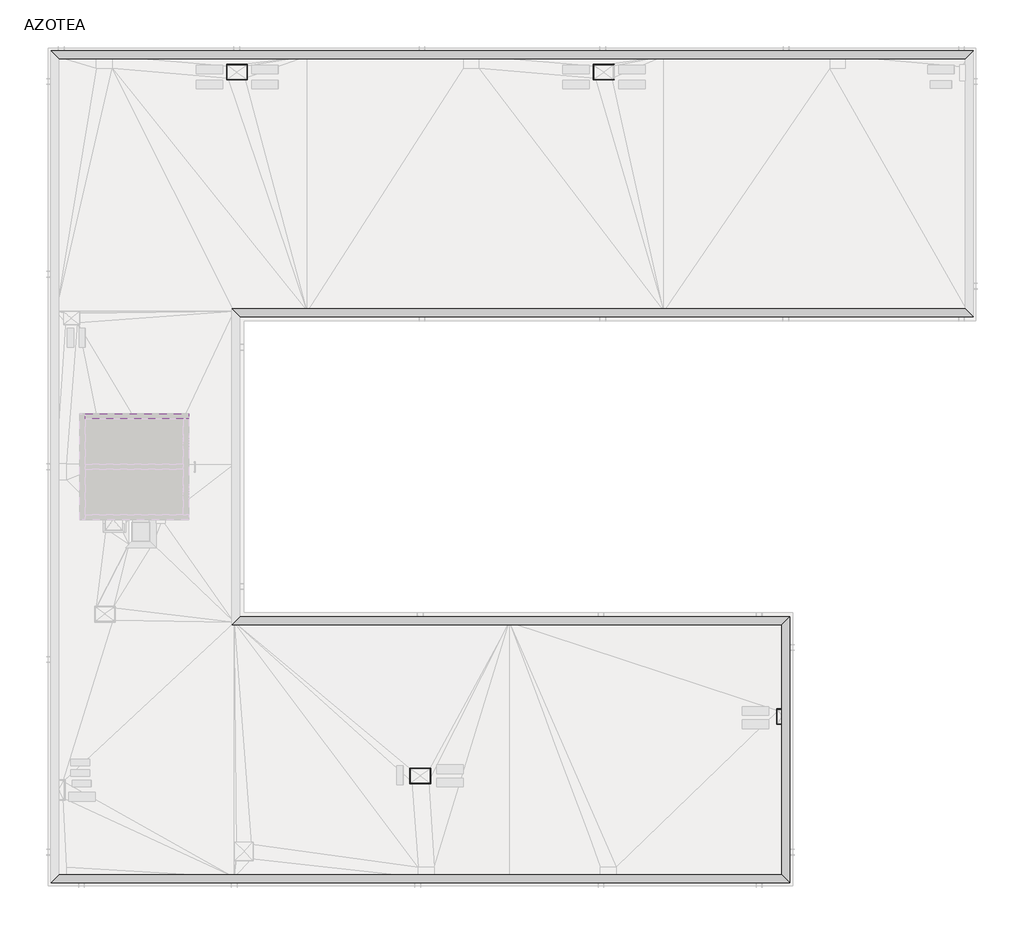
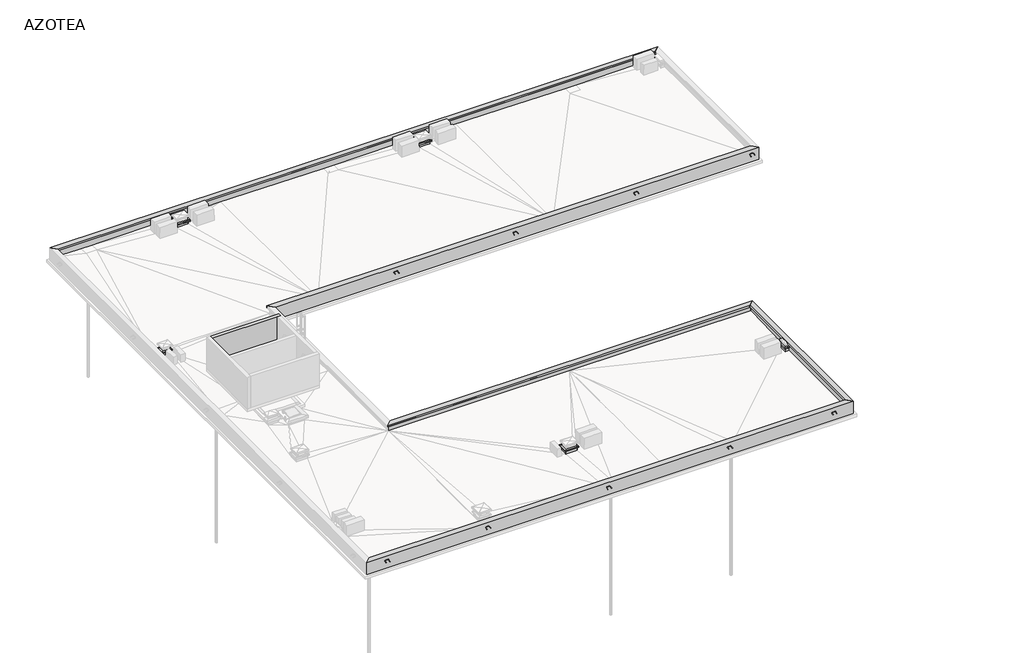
# One storey, part 5 of 6: 24 beams.
"""IFC4 building model written with IfcOpenShell, lengths in millimetres."""

from ifc_helpers import new_model, si_unit, origin, place, context, project, spatial, faceted_brep, element, save

model = new_model("IFC4")

# Units and contexts
model_context = context("Model", 3, world=origin())
ifc_project = project(units=[si_unit("LENGTHUNIT", "METRE", prefix="MILLI")], contexts=[model_context])

# Site, building, storey
site = spatial("IfcSite", under=ifc_project)
building = spatial("IfcBuilding", under=site)
storey = spatial("IfcBuildingStorey", under=building, Name="AZOTEA", Elevation=6570.0)

# Beams
placement = place(None, origin())
element("IfcBeam", 1, ObjectType="ARES-I-HA-Viga con aleta-PET : Viga pretil-20x90-aleta10x10cm-PET", at=placement, inside=storey, context=model_context, shape_type="Brep", body=[
    faceted_brep([(3458.7173693, 31350.2304035, 7210.0), (37618.7173693, 31350.2304035, 7210.0), (37608.7173693, 31340.2304035, 7220.0), (3468.7173693, 31340.2304035, 7220.0), (37598.7173693, 31330.2304035, 7210.0), (3478.7173693, 31330.2304035, 7210.0), (37588.7173693, 31320.2304035, 7210.0), (3488.7173693, 31320.2304035, 7210.0), (37588.7173693, 31320.2304035, 7310.0), (3488.7173693, 31320.2304035, 7310.0), (37888.7173693, 31620.2304035, 7310.0), (3188.7173693, 31620.2304035, 7310.0), (37888.7173693, 31620.2304035, 6570.0), (37888.7173693, 31620.2304035, 6410.0), (37688.7173693, 31620.2304035, 6410.0), (30988.7173694, 31620.2304035, 6410.0), (30788.7173694, 31620.2304035, 6410.0), (24088.7173694, 31620.2304035, 6410.0), (23888.7173694, 31620.2304035, 6410.0), (17188.7173694, 31620.2304035, 6410.0), (16988.7173694, 31620.2304035, 6410.0), (10288.7173694, 31620.2304035, 6410.0), (10088.7173694, 31620.2304035, 6410.0), (3388.7173693, 31620.2304035, 6410.0), (3188.7173693, 31620.2304035, 6410.0), (3188.7173693, 31620.2304035, 6570.0), (37688.7173693, 31420.2304035, 6410.0), (37688.7173693, 31430.2304035, 6410.0), (30988.7173694, 31430.2304035, 6410.0), (30988.7173694, 31420.2304035, 6410.0), (30788.7173693, 31420.2304035, 6410.0), (30788.7173693, 31430.2304035, 6410.0), (24088.7173693, 31430.2304035, 6410.0), (24088.7173693, 31420.2304035, 6410.0), (23888.7173694, 31420.2304035, 6410.0), (23888.7173694, 31430.2304035, 6410.0), (17188.7173694, 31430.2304035, 6410.0), (17188.7173694, 31420.2304035, 6410.0), (16988.7173694, 31420.2304035, 6410.0), (16988.7173694, 31430.2304035, 6410.0), (10288.7173694, 31430.2304035, 6410.0), (10288.7173694, 31420.2304035, 6410.0), (10088.7173694, 31420.2304035, 6410.0), (10088.7173694, 31430.2304035, 6410.0), (3388.7173693, 31430.2304035, 6410.0), (3388.7173693, 31420.2304035, 6410.0), (37688.7173693, 31420.2304035, 7210.0), (3388.7173693, 31420.2304035, 7210.0), (3388.7173693, 31420.2304035, 6570.0), (10088.7173694, 31420.2304035, 6570.0), (10288.7173694, 31420.2304035, 6570.0), (16988.7173694, 31420.2304035, 6570.0), (17188.7173694, 31420.2304035, 6570.0), (23888.7173694, 31420.2304035, 6570.0), (24088.7173693, 31420.2304035, 6570.0), (30788.7173693, 31420.2304035, 6570.0), (30988.7173694, 31420.2304035, 6570.0), (37688.7173693, 31420.2304035, 6570.0), (30988.7173694, 31430.2304035, 6570.0), (37688.7173693, 31430.2304035, 6570.0), (3388.7173693, 31430.2304035, 6570.0), (10088.7173694, 31430.2304035, 6570.0), (10288.7173694, 31430.2304035, 6570.0), (16988.7173694, 31430.2304035, 6570.0), (17188.7173694, 31430.2304035, 6570.0), (23888.7173694, 31430.2304035, 6570.0), (24088.7173693, 31430.2304035, 6570.0), (30788.7173693, 31430.2304035, 6570.0)], [[[0, 1, 2, 3]], [[3, 2, 4, 5]], [[5, 4, 6, 7]], [[7, 6, 8, 9]], [[9, 8, 10, 11]], [[11, 10, 12, 13, 14, 15, 16, 17, 18, 19, 20, 21, 22, 23, 24, 25]], [[24, 23, 22, 21, 20, 19, 18, 17, 16, 15, 14, 13, 26, 27, 28, 29, 30, 31, 32, 33, 34, 35, 36, 37, 38, 39, 40, 41, 42, 43, 44, 45]], [[46, 47, 48, 49, 42, 41, 50, 51, 38, 37, 52, 53, 34, 33, 54, 55, 30, 29, 56, 57]], [[1, 0, 47, 46]], [[1, 46, 57, 26, 13, 12, 10, 8, 6, 4, 2]], [[58, 59, 57, 56]], [[0, 3, 5, 7, 9, 11, 25, 24, 45, 48, 47]], [[44, 60, 48, 45]], [[61, 60, 44, 43]], [[61, 43, 42, 49]], [[40, 62, 50, 41]], [[63, 62, 40, 39]], [[63, 39, 38, 51]], [[36, 64, 52, 37]], [[65, 64, 36, 35]], [[65, 35, 34, 53]], [[32, 66, 54, 33]], [[67, 66, 32, 31]], [[67, 31, 30, 55]], [[59, 27, 26, 57]], [[28, 58, 56, 29]], [[59, 58, 28, 27]], [[66, 67, 55, 54]], [[64, 65, 53, 52]], [[62, 63, 51, 50]], [[60, 61, 49, 48]]]),
])
element("IfcBeam", 2, ObjectType="ARES-I-HA-Viga con aleta-PET : Viga pretil-20x90-aleta10x10cm-PET", at=placement, inside=storey, context=model_context, shape_type="Brep", body=[
    faceted_brep([(30718.7173693, 590.2304035, 7210.0), (3458.7173693, 590.2304035, 7210.0), (3468.7173693, 600.2304035, 7220.0), (30708.7173693, 600.2304035, 7220.0), (3478.7173693, 610.2304035, 7210.0), (30698.7173693, 610.2304035, 7210.0), (3488.7173693, 620.2304035, 7210.0), (30688.7173693, 620.2304035, 7210.0), (3488.7173693, 620.2304035, 7310.0), (30688.7173693, 620.2304035, 7310.0), (3188.7173693, 320.2304035, 7310.0), (30988.7173693, 320.2304035, 7310.0), (3188.7173693, 320.2304035, 6570.0), (3188.7173693, 320.2304035, 6410.0), (3388.7173693, 320.2304035, 6410.0), (10088.7173694, 320.2304035, 6410.0), (10288.7173694, 320.2304035, 6410.0), (16988.7173694, 320.2304035, 6410.0), (17188.7173694, 320.2304035, 6410.0), (23888.7173694, 320.2304035, 6410.0), (24088.7173694, 320.2304035, 6410.0), (30788.7173693, 320.2304035, 6410.0), (30988.7173693, 320.2304035, 6410.0), (30988.7173693, 320.2304035, 6570.0), (3388.7173693, 520.2304035, 6410.0), (10088.7173694, 520.2304035, 6410.0), (10288.7173694, 520.2304035, 6410.0), (16988.7173694, 520.2304035, 6410.0), (17188.7173694, 520.2304035, 6410.0), (23888.7173694, 520.2304035, 6410.0), (24088.7173694, 520.2304035, 6410.0), (30788.7173693, 520.2304035, 6410.0), (3388.7173693, 520.2304035, 7210.0), (30788.7173693, 520.2304035, 7210.0), (30788.7173693, 520.2304035, 6570.0), (3388.7173693, 520.2304035, 6570.0)], [[[0, 1, 2, 3]], [[3, 2, 4, 5]], [[5, 4, 6, 7]], [[7, 6, 8, 9]], [[9, 8, 10, 11]], [[11, 10, 12, 13, 14, 15, 16, 17, 18, 19, 20, 21, 22, 23]], [[22, 21, 20, 19, 18, 17, 16, 15, 14, 13, 24, 25, 26, 27, 28, 29, 30, 31]], [[32, 33, 34, 31, 30, 29, 28, 27, 26, 25, 24, 35]], [[1, 0, 33, 32]], [[1, 32, 35, 24, 13, 12, 10, 8, 6, 4, 2]], [[0, 3, 5, 7, 9, 11, 23, 22, 31, 34, 33]]]),
])
element("IfcBeam", 3, ObjectType="ARES-I-HA-Viga con aleta-PET : Viga pretil-20x90-aleta10x10cm-PET", at=placement, inside=storey, context=model_context, shape_type="Brep", body=[
    faceted_brep([(30718.7173693, 10050.2304035, 7210.0), (30718.7173693, 590.2304035, 7210.0), (30708.7173693, 600.2304035, 7220.0), (30708.7173693, 10040.2304035, 7220.0), (30698.7173693, 610.2304035, 7210.0), (30698.7173693, 10030.2304035, 7210.0), (30688.7173693, 620.2304035, 7210.0), (30688.7173693, 6320.2304035, 7210.0), (30688.7173693, 6820.2304035, 7210.0), (30688.7173693, 10020.2304035, 7210.0), (30688.7173693, 620.2304035, 7310.0), (30688.7173693, 10020.2304035, 7310.0), (30988.7173693, 320.2304035, 7310.0), (30988.7173693, 10320.2304035, 7310.0), (30988.7173693, 320.2304035, 6570.0), (30988.7173693, 320.2304035, 6410.0), (30988.7173693, 920.2304035, 6410.0), (30988.7173693, 6620.2304035, 6410.0), (30988.7173693, 7220.2304035, 6410.0), (30988.7173693, 10120.2304035, 6410.0), (30988.7173693, 10320.2304035, 6410.0), (30988.7173693, 10320.2304035, 6570.0), (30788.7173693, 520.2304035, 6410.0), (30788.7173693, 920.2304035, 6410.0), (30788.7173693, 6350.2304035, 6410.0), (30788.7173693, 6470.2304035, 6410.0), (30788.7173693, 6620.2304035, 6410.0), (30788.7173693, 6670.2304035, 6410.0), (30788.7173693, 6790.2304035, 6410.0), (30788.7173693, 7020.2304035, 6410.0), (30788.7173693, 7220.2304035, 6410.0), (30788.7173693, 10120.2304035, 6410.0), (30788.7173693, 520.2304035, 7210.0), (30788.7173693, 10120.2304035, 7210.0), (30788.7173693, 10120.2304035, 6570.0), (30788.7173693, 520.2304035, 6570.0)], [[[0, 1, 2, 3]], [[3, 2, 4, 5]], [[5, 4, 6, 7, 8, 9]], [[9, 8, 7, 6, 10, 11]], [[11, 10, 12, 13]], [[13, 12, 14, 15, 16, 17, 18, 19, 20, 21]], [[20, 19, 18, 17, 16, 15, 22, 23, 24, 25, 26, 27, 28, 29, 30, 31]], [[32, 33, 34, 31, 30, 29, 28, 27, 26, 25, 24, 23, 22, 35]], [[1, 0, 33, 32]], [[0, 3, 5, 9, 11, 13, 21, 20, 31, 34, 33]], [[1, 32, 35, 22, 15, 14, 12, 10, 6, 4, 2]]]),
])
element("IfcBeam", 4, ObjectType="ARES-I-HA-Viga con aleta-PET : Viga pretil-20x90-aleta10x10cm-PET", at=placement, inside=storey, context=model_context, shape_type="Brep", body=[
    faceted_brep([(10018.7173693, 10050.2304035, 7210.0), (30718.7173693, 10050.2304035, 7210.0), (30708.7173693, 10040.2304035, 7220.0), (10008.7173693, 10040.2304035, 7220.0), (30698.7173693, 10030.2304035, 7210.0), (9998.7173693, 10030.2304035, 7210.0), (30688.7173693, 10020.2304035, 7210.0), (9988.7173693, 10020.2304035, 7210.0), (30688.7173693, 10020.2304035, 7310.0), (9988.7173693, 10020.2304035, 7310.0), (30988.7173693, 10320.2304035, 7310.0), (10288.7173693, 10320.2304035, 7310.0), (30988.7173693, 10320.2304035, 6570.0), (30988.7173693, 10320.2304035, 6410.0), (30788.7173693, 10320.2304035, 6410.0), (24088.7173694, 10320.2304035, 6410.0), (23888.7173694, 10320.2304035, 6410.0), (17188.7173694, 10320.2304035, 6410.0), (16988.7173694, 10320.2304035, 6410.0), (10288.7173693, 10320.2304035, 6410.0), (10288.7173693, 10320.2304035, 6570.0), (30788.7173693, 10120.2304035, 6410.0), (24088.7173694, 10120.2304035, 6410.0), (23888.7173694, 10120.2304035, 6410.0), (17188.7173694, 10120.2304035, 6410.0), (16988.7173694, 10120.2304035, 6410.0), (10288.7173693, 10120.2304035, 6410.0), (10088.7173693, 10120.2304035, 6410.0), (30788.7173693, 10120.2304035, 6570.0), (30788.7173693, 10120.2304035, 7210.0), (10088.7173693, 10120.2304035, 7210.0), (10088.7173693, 10120.2304035, 6570.0)], [[[0, 1, 2, 3]], [[3, 2, 4, 5]], [[5, 4, 6, 7]], [[7, 6, 8, 9]], [[9, 8, 10, 11]], [[11, 10, 12, 13, 14, 15, 16, 17, 18, 19, 20]], [[19, 18, 17, 16, 15, 14, 13, 21, 22, 23, 24, 25, 26, 27]], [[27, 26, 25, 24, 23, 22, 21, 28, 29, 30, 31]], [[1, 0, 30, 29]], [[1, 29, 28, 21, 13, 12, 10, 8, 6, 4, 2]], [[0, 3, 5, 7, 9, 11, 20, 19, 27, 31, 30]]]),
])
element("IfcBeam", 5, ObjectType="ARES-I-HA-Viga con aleta-PET : Viga pretil-20x90-aleta10x10cm-PET", at=placement, inside=storey, context=model_context, shape_type="Brep", body=[
    faceted_brep([(37618.7173693, 21890.2304035, 7210.0), (10018.7173693, 21890.2304035, 7210.0), (10008.7173693, 21900.2304035, 7220.0), (37608.7173693, 21900.2304035, 7220.0), (9998.7173693, 21910.2304035, 7210.0), (37598.7173693, 21910.2304035, 7210.0), (9988.7173693, 21920.2304035, 7210.0), (37588.7173693, 21920.2304035, 7210.0), (9988.7173693, 21920.2304035, 7310.0), (37588.7173693, 21920.2304035, 7310.0), (10288.7173693, 21620.2304035, 7310.0), (37888.7173693, 21620.2304035, 7310.0), (10288.7173693, 21620.2304035, 6570.0), (10288.7173693, 21620.2304035, 6410.0), (16988.7173694, 21620.2304035, 6410.0), (17188.7173694, 21620.2304035, 6410.0), (23888.7173694, 21620.2304035, 6410.0), (24088.7173694, 21620.2304035, 6410.0), (30788.7173693, 21620.2304035, 6410.0), (30988.7173693, 21620.2304035, 6410.0), (37688.7173693, 21620.2304035, 6410.0), (37888.7173693, 21620.2304035, 6410.0), (37888.7173693, 21620.2304035, 6570.0), (10088.7173693, 21820.2304035, 6410.0), (10288.7173693, 21820.2304035, 6410.0), (16988.7173694, 21820.2304035, 6410.0), (17188.7173694, 21820.2304035, 6410.0), (23888.7173694, 21820.2304035, 6410.0), (24088.7173694, 21820.2304035, 6410.0), (30788.7173693, 21820.2304035, 6410.0), (30988.7173693, 21820.2304035, 6410.0), (37688.7173693, 21820.2304035, 6410.0), (10088.7173693, 21820.2304035, 6570.0), (10088.7173693, 21820.2304035, 7210.0), (37688.7173693, 21820.2304035, 7210.0), (37688.7173693, 21820.2304035, 6570.0)], [[[0, 1, 2, 3]], [[3, 2, 4, 5]], [[5, 4, 6, 7]], [[7, 6, 8, 9]], [[9, 8, 10, 11]], [[11, 10, 12, 13, 14, 15, 16, 17, 18, 19, 20, 21, 22]], [[21, 20, 19, 18, 17, 16, 15, 14, 13, 23, 24, 25, 26, 27, 28, 29, 30, 31]], [[31, 30, 29, 28, 27, 26, 25, 24, 23, 32, 33, 34, 35]], [[1, 0, 34, 33]], [[0, 3, 5, 7, 9, 11, 22, 21, 31, 35, 34]], [[1, 33, 32, 23, 13, 12, 10, 8, 6, 4, 2]]]),
])
element("IfcBeam", 6, ObjectType="ARES-I-HA-Viga con aleta-PET : Viga pretil-12x66cm-aleta7x7cm-PET", at=placement, inside=storey, context=model_context, shape_type="Brep", body=[
    faceted_brep([(10548.7173694, 31080.2304035, 7000.0), (9828.7173694, 31080.2304035, 7000.0), (9818.7173694, 31090.2304035, 7010.0), (10558.7173694, 31090.2304035, 7010.0), (9808.7173694, 31100.2304035, 7000.0), (10568.7173694, 31100.2304035, 7000.0), (9798.7173694, 31110.2304035, 7000.0), (10578.7173694, 31110.2304035, 7000.0), (9798.7173694, 31110.2304035, 7070.0), (10578.7173694, 31110.2304035, 7070.0), (9988.7173694, 30920.2304035, 7070.0), (10388.7173694, 30920.2304035, 7070.0), (9988.7173694, 30920.2304035, 6410.0), (10088.7173694, 30920.2304035, 6410.0), (10088.7173694, 30920.2304035, 6570.0), (10288.7173694, 30920.2304035, 6570.0), (10288.7173694, 30920.2304035, 6410.0), (10388.7173694, 30920.2304035, 6410.0), (10508.7173694, 31040.2304035, 6410.0), (10288.7173694, 31040.2304035, 6410.0), (9868.7173694, 31040.2304035, 7000.0), (10508.7173694, 31040.2304035, 7000.0), (10508.7173694, 31040.2304035, 6570.0), (10288.7173694, 31040.2304035, 6570.0), (10088.7173694, 31040.2304035, 6570.0), (10088.7173694, 31040.2304035, 6410.0), (9868.7173694, 31040.2304035, 6410.0), (9868.7173694, 31040.2304035, 6570.0)], [[[0, 1, 2, 3]], [[3, 2, 4, 5]], [[5, 4, 6, 7]], [[7, 6, 8, 9]], [[9, 8, 10, 11]], [[11, 10, 12, 13, 14, 15, 16, 17]], [[18, 17, 16, 19]], [[20, 21, 22, 18, 19, 23, 24, 25, 26, 27]], [[1, 0, 21, 20]], [[0, 3, 5, 7, 9, 11, 17, 18, 22, 21]], [[1, 20, 27, 26, 12, 10, 8, 6, 4, 2]], [[23, 15, 14, 24]], [[24, 14, 13, 25]], [[15, 23, 19, 16]], [[12, 26, 25, 13]]]),
])
element("IfcBeam", 7, ObjectType="ARES-I-HA-Viga con aleta-PET : Viga pretil-12x66cm-aleta7x7cm-PET", at=placement, inside=storey, context=model_context, shape_type="Brep", body=[
    faceted_brep([(10548.7173694, 30560.2304035, 7000.0), (10548.7173694, 31080.2304035, 7000.0), (10558.7173694, 31090.2304035, 7010.0), (10558.7173694, 30550.2304035, 7010.0), (10568.7173694, 31100.2304035, 7000.0), (10568.7173694, 30540.2304035, 7000.0), (10578.7173694, 31110.2304035, 7000.0), (10578.7173694, 30530.2304035, 7000.0), (10578.7173694, 31110.2304035, 7070.0), (10578.7173694, 30530.2304035, 7070.0), (10388.7173694, 30920.2304035, 7070.0), (10388.7173694, 30720.2304035, 7070.0), (10388.7173694, 30920.2304035, 6410.0), (10388.7173694, 30720.2304035, 6410.0), (10508.7173694, 31040.2304035, 6410.0), (10508.7173694, 30600.2304035, 6410.0), (10508.7173694, 31040.2304035, 6570.0), (10508.7173694, 31040.2304035, 7000.0), (10508.7173694, 30600.2304035, 7000.0), (10508.7173694, 30600.2304035, 6570.0)], [[[0, 1, 2, 3]], [[3, 2, 4, 5]], [[5, 4, 6, 7]], [[7, 6, 8, 9]], [[9, 8, 10, 11]], [[11, 10, 12, 13]], [[13, 12, 14, 15]], [[15, 14, 16, 17, 18, 19]], [[1, 0, 18, 17]], [[1, 17, 16, 14, 12, 10, 8, 6, 4, 2]], [[0, 3, 5, 7, 9, 11, 13, 15, 19, 18]]]),
])
element("IfcBeam", 8, ObjectType="ARES-I-HA-Viga con aleta-PET : Viga pretil-12x66cm-aleta7x7cm-PET", at=placement, inside=storey, context=model_context, shape_type="Brep", body=[
    faceted_brep([(9828.7173694, 30560.2304035, 7000.0), (10548.7173694, 30560.2304035, 7000.0), (10558.7173694, 30550.2304035, 7010.0), (9818.7173694, 30550.2304035, 7010.0), (10568.7173694, 30540.2304035, 7000.0), (9808.7173694, 30540.2304035, 7000.0), (10578.7173694, 30530.2304035, 7000.0), (9798.7173694, 30530.2304035, 7000.0), (10578.7173694, 30530.2304035, 7070.0), (9798.7173694, 30530.2304035, 7070.0), (10388.7173694, 30720.2304035, 7070.0), (9988.7173694, 30720.2304035, 7070.0), (10388.7173694, 30720.2304035, 6410.0), (10288.7173694, 30720.2304035, 6410.0), (10288.7173694, 30720.2304035, 6570.0), (10088.7173694, 30720.2304035, 6570.0), (10088.7173694, 30720.2304035, 6410.0), (9988.7173694, 30720.2304035, 6410.0), (9868.7173694, 30600.2304035, 6410.0), (10088.7173694, 30600.2304035, 6410.0), (10508.7173694, 30600.2304035, 7000.0), (9868.7173694, 30600.2304035, 7000.0), (9868.7173694, 30600.2304035, 6570.0), (10088.7173694, 30600.2304035, 6570.0), (10288.7173694, 30600.2304035, 6570.0), (10288.7173694, 30600.2304035, 6410.0), (10508.7173694, 30600.2304035, 6410.0), (10508.7173694, 30600.2304035, 6570.0)], [[[0, 1, 2, 3]], [[3, 2, 4, 5]], [[5, 4, 6, 7]], [[7, 6, 8, 9]], [[9, 8, 10, 11]], [[11, 10, 12, 13, 14, 15, 16, 17]], [[18, 17, 16, 19]], [[20, 21, 22, 18, 19, 23, 24, 25, 26, 27]], [[1, 0, 21, 20]], [[1, 20, 27, 26, 12, 10, 8, 6, 4, 2]], [[0, 3, 5, 7, 9, 11, 17, 18, 22, 21]], [[14, 24, 23, 15]], [[15, 23, 19, 16]], [[24, 14, 13, 25]], [[12, 26, 25, 13]]]),
])
element("IfcBeam", 9, ObjectType="ARES-I-HA-Viga con aleta-PET : Viga pretil-12x66cm-aleta7x7cm-PET", at=placement, inside=storey, context=model_context, shape_type="Brep", body=[
    faceted_brep([(9828.7173694, 31080.2304035, 7000.0), (9828.7173694, 30560.2304035, 7000.0), (9818.7173694, 30550.2304035, 7010.0), (9818.7173694, 31090.2304035, 7010.0), (9808.7173694, 30540.2304035, 7000.0), (9808.7173694, 31100.2304035, 7000.0), (9798.7173694, 30530.2304035, 7000.0), (9798.7173694, 31110.2304035, 7000.0), (9798.7173694, 30530.2304035, 7070.0), (9798.7173694, 31110.2304035, 7070.0), (9988.7173694, 30720.2304035, 7070.0), (9988.7173694, 30920.2304035, 7070.0), (9988.7173694, 30720.2304035, 6410.0), (9988.7173694, 30920.2304035, 6410.0), (9868.7173694, 30600.2304035, 6410.0), (9868.7173694, 31040.2304035, 6410.0), (9868.7173694, 30600.2304035, 6570.0), (9868.7173694, 30600.2304035, 7000.0), (9868.7173694, 31040.2304035, 7000.0), (9868.7173694, 31040.2304035, 6570.0)], [[[0, 1, 2, 3]], [[3, 2, 4, 5]], [[5, 4, 6, 7]], [[7, 6, 8, 9]], [[9, 8, 10, 11]], [[11, 10, 12, 13]], [[13, 12, 14, 15]], [[15, 14, 16, 17, 18, 19]], [[1, 0, 18, 17]], [[0, 3, 5, 7, 9, 11, 13, 15, 19, 18]], [[1, 17, 16, 14, 12, 10, 8, 6, 4, 2]]]),
])
element("IfcBeam", 10, ObjectType="ARES-I-HA-Viga con aleta-PET : Viga pretil-12x66cm-aleta7x7cm-PET", at=placement, inside=storey, context=model_context, shape_type="Brep", body=[
    faceted_brep([(24348.7173694, 31080.2304035, 7000.0), (23628.7173693, 31080.2304035, 7000.0), (23618.7173693, 31090.2304035, 7010.0), (24358.7173694, 31090.2304035, 7010.0), (23608.7173693, 31100.2304035, 7000.0), (24368.7173694, 31100.2304035, 7000.0), (23598.7173693, 31110.2304035, 7000.0), (24378.7173694, 31110.2304035, 7000.0), (23598.7173693, 31110.2304035, 7070.0), (24378.7173694, 31110.2304035, 7070.0), (23788.7173693, 30920.2304035, 7070.0), (24188.7173694, 30920.2304035, 7070.0), (23788.7173693, 30920.2304035, 6410.0), (23888.7173694, 30920.2304035, 6410.0), (23888.7173694, 30920.2304035, 6570.0), (24088.7173694, 30920.2304035, 6570.0), (24088.7173694, 30920.2304035, 6410.0), (24188.7173694, 30920.2304035, 6410.0), (24308.7173694, 31040.2304035, 6410.0), (24088.7173694, 31040.2304035, 6410.0), (23668.7173693, 31040.2304035, 7000.0), (24308.7173694, 31040.2304035, 7000.0), (24308.7173694, 31040.2304035, 6570.0), (24088.7173694, 31040.2304035, 6570.0), (23888.7173694, 31040.2304035, 6570.0), (23888.7173694, 31040.2304035, 6410.0), (23668.7173693, 31040.2304035, 6410.0), (23668.7173693, 31040.2304035, 6570.0)], [[[0, 1, 2, 3]], [[3, 2, 4, 5]], [[5, 4, 6, 7]], [[7, 6, 8, 9]], [[9, 8, 10, 11]], [[11, 10, 12, 13, 14, 15, 16, 17]], [[18, 17, 16, 19]], [[20, 21, 22, 18, 19, 23, 24, 25, 26, 27]], [[1, 0, 21, 20]], [[0, 3, 5, 7, 9, 11, 17, 18, 22, 21]], [[1, 20, 27, 26, 12, 10, 8, 6, 4, 2]], [[23, 15, 14, 24]], [[24, 14, 13, 25]], [[15, 23, 19, 16]], [[12, 26, 25, 13]]]),
])
element("IfcBeam", 11, ObjectType="ARES-I-HA-Viga con aleta-PET : Viga pretil-12x66cm-aleta7x7cm-PET", at=placement, inside=storey, context=model_context, shape_type="Brep", body=[
    faceted_brep([(23628.7173693, 30560.2304035, 7000.0), (24348.7173694, 30560.2304035, 7000.0), (24358.7173694, 30550.2304035, 7010.0), (23618.7173693, 30550.2304035, 7010.0), (24368.7173694, 30540.2304035, 7000.0), (23608.7173693, 30540.2304035, 7000.0), (24378.7173694, 30530.2304035, 7000.0), (23598.7173693, 30530.2304035, 7000.0), (24378.7173694, 30530.2304035, 7070.0), (23598.7173693, 30530.2304035, 7070.0), (24188.7173694, 30720.2304035, 7070.0), (23788.7173693, 30720.2304035, 7070.0), (24188.7173694, 30720.2304035, 6410.0), (24088.7173694, 30720.2304035, 6410.0), (24088.7173694, 30720.2304035, 6570.0), (23888.7173694, 30720.2304035, 6570.0), (23888.7173694, 30720.2304035, 6410.0), (23788.7173693, 30720.2304035, 6410.0), (23668.7173693, 30600.2304035, 6410.0), (23888.7173694, 30600.2304035, 6410.0), (24308.7173694, 30600.2304035, 7000.0), (23668.7173693, 30600.2304035, 7000.0), (23668.7173693, 30600.2304035, 6570.0), (23888.7173694, 30600.2304035, 6570.0), (24088.7173694, 30600.2304035, 6570.0), (24088.7173694, 30600.2304035, 6410.0), (24308.7173694, 30600.2304035, 6410.0), (24308.7173694, 30600.2304035, 6570.0)], [[[0, 1, 2, 3]], [[3, 2, 4, 5]], [[5, 4, 6, 7]], [[7, 6, 8, 9]], [[9, 8, 10, 11]], [[11, 10, 12, 13, 14, 15, 16, 17]], [[18, 17, 16, 19]], [[20, 21, 22, 18, 19, 23, 24, 25, 26, 27]], [[1, 0, 21, 20]], [[0, 3, 5, 7, 9, 11, 17, 18, 22, 21]], [[1, 20, 27, 26, 12, 10, 8, 6, 4, 2]], [[14, 24, 23, 15]], [[15, 23, 19, 16]], [[24, 14, 13, 25]], [[12, 26, 25, 13]]]),
])
element("IfcBeam", 12, ObjectType="ARES-I-HA-Viga con aleta-PET : Viga pretil-12x66cm-aleta7x7cm-PET", at=placement, inside=storey, context=model_context, shape_type="Brep", body=[
    faceted_brep([(23628.7173693, 31080.2304035, 7000.0), (23628.7173693, 30560.2304035, 7000.0), (23618.7173693, 30550.2304035, 7010.0), (23618.7173693, 31090.2304035, 7010.0), (23608.7173693, 30540.2304035, 7000.0), (23608.7173693, 31100.2304035, 7000.0), (23598.7173693, 30530.2304035, 7000.0), (23598.7173693, 31110.2304035, 7000.0), (23598.7173693, 30530.2304035, 7070.0), (23598.7173693, 31110.2304035, 7070.0), (23788.7173693, 30720.2304035, 7070.0), (23788.7173693, 30920.2304035, 7070.0), (23788.7173693, 30720.2304035, 6410.0), (23788.7173693, 30920.2304035, 6410.0), (23668.7173693, 30600.2304035, 6410.0), (23668.7173693, 31040.2304035, 6410.0), (23668.7173693, 30600.2304035, 6570.0), (23668.7173693, 30600.2304035, 7000.0), (23668.7173693, 31040.2304035, 7000.0), (23668.7173693, 31040.2304035, 6570.0)], [[[0, 1, 2, 3]], [[3, 2, 4, 5]], [[5, 4, 6, 7]], [[7, 6, 8, 9]], [[9, 8, 10, 11]], [[11, 10, 12, 13]], [[13, 12, 14, 15]], [[15, 14, 16, 17, 18, 19]], [[1, 0, 18, 17]], [[0, 3, 5, 7, 9, 11, 13, 15, 19, 18]], [[1, 17, 16, 14, 12, 10, 8, 6, 4, 2]]]),
])
element("IfcBeam", 13, ObjectType="ARES-I-HA-Viga con aleta-PET : Viga pretil-12x66cm-aleta7x7cm-PET", at=placement, inside=storey, context=model_context, shape_type="Brep", body=[
    faceted_brep([(17448.7173694, 4600.2304035, 7000.0), (16728.7173694, 4600.2304035, 7000.0), (16718.7173694, 4610.2304035, 7010.0), (17458.7173694, 4610.2304035, 7010.0), (16708.7173694, 4620.2304035, 7000.0), (17468.7173694, 4620.2304035, 7000.0), (16698.7173694, 4630.2304035, 7000.0), (17478.7173694, 4630.2304035, 7000.0), (16698.7173694, 4630.2304035, 7070.0), (17478.7173694, 4630.2304035, 7070.0), (16888.7173694, 4440.2304035, 7070.0), (17288.7173694, 4440.2304035, 7070.0), (16888.7173694, 4440.2304035, 6410.0), (16988.7173694, 4440.2304035, 6410.0), (16988.7173694, 4440.2304035, 6570.0), (17188.7173694, 4440.2304035, 6570.0), (17188.7173694, 4440.2304035, 6410.0), (17288.7173694, 4440.2304035, 6410.0), (17408.7173694, 4560.2304035, 6410.0), (17188.7173694, 4560.2304035, 6410.0), (16768.7173694, 4560.2304035, 7000.0), (17408.7173694, 4560.2304035, 7000.0), (17408.7173694, 4560.2304035, 6570.0), (17188.7173694, 4560.2304035, 6570.0), (16988.7173694, 4560.2304035, 6570.0), (16988.7173694, 4560.2304035, 6410.0), (16768.7173694, 4560.2304035, 6410.0), (16768.7173694, 4560.2304035, 6570.0)], [[[0, 1, 2, 3]], [[3, 2, 4, 5]], [[5, 4, 6, 7]], [[7, 6, 8, 9]], [[9, 8, 10, 11]], [[11, 10, 12, 13, 14, 15, 16, 17]], [[18, 17, 16, 19]], [[20, 21, 22, 18, 19, 23, 24, 25, 26, 27]], [[1, 0, 21, 20]], [[0, 3, 5, 7, 9, 11, 17, 18, 22, 21]], [[1, 20, 27, 26, 12, 10, 8, 6, 4, 2]], [[23, 15, 14, 24]], [[24, 14, 13, 25]], [[15, 23, 19, 16]], [[12, 26, 25, 13]]]),
])
element("IfcBeam", 14, ObjectType="ARES-I-HA-Viga con aleta-PET : Viga pretil-12x66cm-aleta7x7cm-PET", at=placement, inside=storey, context=model_context, shape_type="Brep", body=[
    faceted_brep([(17448.7173694, 4080.2304035, 7000.0), (17448.7173694, 4600.2304035, 7000.0), (17458.7173694, 4610.2304035, 7010.0), (17458.7173694, 4070.2304035, 7010.0), (17468.7173694, 4620.2304035, 7000.0), (17468.7173694, 4060.2304035, 7000.0), (17478.7173694, 4630.2304035, 7000.0), (17478.7173694, 4050.2304035, 7000.0), (17478.7173694, 4630.2304035, 7070.0), (17478.7173694, 4050.2304035, 7070.0), (17288.7173694, 4440.2304035, 7070.0), (17288.7173694, 4240.2304035, 7070.0), (17288.7173694, 4440.2304035, 6410.0), (17288.7173694, 4240.2304035, 6410.0), (17408.7173694, 4560.2304035, 6410.0), (17408.7173694, 4120.2304035, 6410.0), (17408.7173694, 4560.2304035, 6570.0), (17408.7173694, 4560.2304035, 7000.0), (17408.7173694, 4120.2304035, 7000.0), (17408.7173694, 4120.2304035, 6570.0)], [[[0, 1, 2, 3]], [[3, 2, 4, 5]], [[5, 4, 6, 7]], [[7, 6, 8, 9]], [[9, 8, 10, 11]], [[11, 10, 12, 13]], [[13, 12, 14, 15]], [[15, 14, 16, 17, 18, 19]], [[1, 0, 18, 17]], [[0, 3, 5, 7, 9, 11, 13, 15, 19, 18]], [[1, 17, 16, 14, 12, 10, 8, 6, 4, 2]]]),
])
element("IfcBeam", 15, ObjectType="ARES-I-HA-Viga con aleta-PET : Viga pretil-12x66cm-aleta7x7cm-PET", at=placement, inside=storey, context=model_context, shape_type="Brep", body=[
    faceted_brep([(16728.7173694, 4080.2304035, 7000.0), (17448.7173694, 4080.2304035, 7000.0), (17458.7173694, 4070.2304035, 7010.0), (16718.7173694, 4070.2304035, 7010.0), (17468.7173694, 4060.2304035, 7000.0), (16708.7173694, 4060.2304035, 7000.0), (17478.7173694, 4050.2304035, 7000.0), (16698.7173694, 4050.2304035, 7000.0), (17478.7173694, 4050.2304035, 7070.0), (16698.7173694, 4050.2304035, 7070.0), (17288.7173694, 4240.2304035, 7070.0), (16888.7173694, 4240.2304035, 7070.0), (17288.7173694, 4240.2304035, 6410.0), (17188.7173694, 4240.2304035, 6410.0), (17188.7173694, 4240.2304035, 6570.0), (16988.7173694, 4240.2304035, 6570.0), (16988.7173694, 4240.2304035, 6410.0), (16888.7173694, 4240.2304035, 6410.0), (16768.7173694, 4120.2304035, 6410.0), (16988.7173694, 4120.2304035, 6410.0), (17408.7173694, 4120.2304035, 7000.0), (16768.7173694, 4120.2304035, 7000.0), (16768.7173694, 4120.2304035, 6570.0), (16988.7173694, 4120.2304035, 6570.0), (17188.7173694, 4120.2304035, 6570.0), (17188.7173694, 4120.2304035, 6410.0), (17408.7173694, 4120.2304035, 6410.0), (17408.7173694, 4120.2304035, 6570.0)], [[[0, 1, 2, 3]], [[3, 2, 4, 5]], [[5, 4, 6, 7]], [[7, 6, 8, 9]], [[9, 8, 10, 11]], [[11, 10, 12, 13, 14, 15, 16, 17]], [[18, 17, 16, 19]], [[20, 21, 22, 18, 19, 23, 24, 25, 26, 27]], [[1, 0, 21, 20]], [[0, 3, 5, 7, 9, 11, 17, 18, 22, 21]], [[1, 20, 27, 26, 12, 10, 8, 6, 4, 2]], [[14, 24, 23, 15]], [[15, 23, 19, 16]], [[24, 14, 13, 25]], [[12, 26, 25, 13]]]),
])
element("IfcBeam", 16, ObjectType="ARES-I-HA-Viga con aleta-PET : Viga pretil-12x66cm-aleta7x7cm-PET", at=placement, inside=storey, context=model_context, shape_type="Brep", body=[
    faceted_brep([(16728.7173694, 4600.2304035, 7000.0), (16728.7173694, 4080.2304035, 7000.0), (16718.7173694, 4070.2304035, 7010.0), (16718.7173694, 4610.2304035, 7010.0), (16708.7173694, 4060.2304035, 7000.0), (16708.7173694, 4620.2304035, 7000.0), (16698.7173694, 4050.2304035, 7000.0), (16698.7173694, 4630.2304035, 7000.0), (16698.7173694, 4050.2304035, 7070.0), (16698.7173694, 4630.2304035, 7070.0), (16888.7173694, 4240.2304035, 7070.0), (16888.7173694, 4440.2304035, 7070.0), (16888.7173694, 4240.2304035, 6410.0), (16888.7173694, 4440.2304035, 6410.0), (16768.7173694, 4120.2304035, 6410.0), (16768.7173694, 4560.2304035, 6410.0), (16768.7173694, 4120.2304035, 6570.0), (16768.7173694, 4120.2304035, 7000.0), (16768.7173694, 4560.2304035, 7000.0), (16768.7173694, 4560.2304035, 6570.0)], [[[0, 1, 2, 3]], [[3, 2, 4, 5]], [[5, 4, 6, 7]], [[7, 6, 8, 9]], [[9, 8, 10, 11]], [[11, 10, 12, 13]], [[13, 12, 14, 15]], [[15, 14, 16, 17, 18, 19]], [[1, 0, 18, 17]], [[0, 3, 5, 7, 9, 11, 13, 15, 19, 18]], [[1, 17, 16, 14, 12, 10, 8, 6, 4, 2]]]),
])
element("IfcBeam", 17, ObjectType="ARES-I-HA-Viga con aleta-PET : Viga pretil-12x66cm-aleta7x7cm-PET", at=placement, inside=storey, context=model_context, shape_type="Brep", body=[
    faceted_brep([(30516.2173693, 6300.2304035, 7010.0), (30526.2173693, 6310.2304035, 7000.0), (30788.7173693, 6310.2304035, 7000.0), (30788.7173693, 6300.2304035, 7010.0), (30506.2173693, 6290.2304035, 7000.0), (30788.7173693, 6290.2304035, 7000.0), (30496.2173693, 6280.2304035, 7000.0), (30788.7173693, 6280.2304035, 7000.0), (30496.2173693, 6280.2304035, 7070.0), (30788.7173693, 6280.2304035, 7070.0), (30686.2173693, 6470.2304035, 7070.0), (30788.7173693, 6470.2304035, 7070.0), (30686.2173693, 6470.2304035, 6410.0), (30788.7173693, 6470.2304035, 6410.0), (30566.2173693, 6350.2304035, 6410.0), (30788.7173693, 6350.2304035, 6410.0), (30788.7173693, 6350.2304035, 7000.0), (30566.2173693, 6350.2304035, 7000.0), (30566.2173693, 6350.2304035, 6570.0), (30788.7173693, 6350.2304035, 6570.0)], [[[0, 1, 2, 3]], [[4, 0, 3, 5]], [[6, 4, 5, 7]], [[8, 6, 7, 9]], [[10, 8, 9, 11]], [[12, 10, 11, 13]], [[14, 12, 13, 15]], [[16, 17, 18, 14, 15, 19]], [[1, 17, 16, 2]], [[1, 0, 4, 6, 8, 10, 12, 14, 18, 17]], [[3, 2, 16, 19, 15, 13, 11, 9, 7, 5]]]),
])
element("IfcBeam", 18, ObjectType="ARES-I-HA-Viga con aleta-PET : Viga pretil-12x66cm-aleta7x7cm-PET", at=placement, inside=storey, context=model_context, shape_type="Brep", body=[
    faceted_brep([(30526.2173693, 6830.2304035, 7000.0), (30526.2173693, 6310.2304035, 7000.0), (30516.2173693, 6300.2304035, 7010.0), (30516.2173693, 6840.2304035, 7010.0), (30506.2173693, 6290.2304035, 7000.0), (30506.2173693, 6850.2304035, 7000.0), (30496.2173693, 6280.2304035, 7000.0), (30496.2173693, 6860.2304035, 7000.0), (30496.2173693, 6280.2304035, 7070.0), (30496.2173693, 6860.2304035, 7070.0), (30686.2173693, 6470.2304035, 7070.0), (30686.2173693, 6670.2304035, 7070.0), (30686.2173693, 6470.2304035, 6410.0), (30686.2173693, 6670.2304035, 6410.0), (30566.2173693, 6350.2304035, 6410.0), (30566.2173693, 6790.2304035, 6410.0), (30566.2173693, 6350.2304035, 6570.0), (30566.2173693, 6350.2304035, 7000.0), (30566.2173693, 6790.2304035, 7000.0), (30566.2173693, 6790.2304035, 6570.0)], [[[0, 1, 2, 3]], [[3, 2, 4, 5]], [[5, 4, 6, 7]], [[7, 6, 8, 9]], [[9, 8, 10, 11]], [[11, 10, 12, 13]], [[13, 12, 14, 15]], [[15, 14, 16, 17, 18, 19]], [[1, 0, 18, 17]], [[1, 17, 16, 14, 12, 10, 8, 6, 4, 2]], [[0, 3, 5, 7, 9, 11, 13, 15, 19, 18]]]),
])
element("IfcBeam", 19, ObjectType="ARES-I-HA-Viga con aleta-PET : Viga pretil-12x66cm-aleta7x7cm-PET", at=placement, inside=storey, context=model_context, shape_type="Brep", body=[
    faceted_brep([(30526.2173693, 6830.2304035, 7000.0), (30516.2173693, 6840.2304035, 7010.0), (30788.7173693, 6840.2304035, 7010.0), (30788.7173693, 6830.2304035, 7000.0), (30506.2173693, 6850.2304035, 7000.0), (30788.7173693, 6850.2304035, 7000.0), (30496.2173693, 6860.2304035, 7000.0), (30788.7173693, 6860.2304035, 7000.0), (30496.2173693, 6860.2304035, 7070.0), (30788.7173693, 6860.2304035, 7070.0), (30686.2173693, 6670.2304035, 7070.0), (30788.7173693, 6670.2304035, 7070.0), (30686.2173693, 6670.2304035, 6410.0), (30788.7173693, 6670.2304035, 6410.0), (30566.2173693, 6790.2304035, 6410.0), (30788.7173693, 6790.2304035, 6410.0), (30566.2173693, 6790.2304035, 6570.0), (30566.2173693, 6790.2304035, 7000.0), (30788.7173693, 6790.2304035, 7000.0), (30788.7173693, 6790.2304035, 6570.0)], [[[0, 1, 2, 3]], [[1, 4, 5, 2]], [[4, 6, 7, 5]], [[6, 8, 9, 7]], [[8, 10, 11, 9]], [[10, 12, 13, 11]], [[12, 14, 15, 13]], [[14, 16, 17, 18, 19, 15]], [[17, 0, 3, 18]], [[0, 17, 16, 14, 12, 10, 8, 6, 4, 1]], [[3, 2, 5, 7, 9, 11, 13, 15, 19, 18]]]),
])
element("IfcBeam", 20, ObjectType="ARES-I-HA-Viga con aleta-PET : Viga pretil-12x66cm-aleta7x7cm-PET", at=placement, inside=storey, context=model_context, shape_type="Brep", body=[
    faceted_brep([(4228.7173693, 21780.2304035, 7000.0), (3708.7173693, 21780.2304035, 7000.0), (3698.7173693, 21790.2304035, 7010.0), (4238.7173693, 21790.2304035, 7010.0), (3688.7173693, 21800.2304035, 7000.0), (4248.7173693, 21800.2304035, 7000.0), (3678.7173693, 21810.2304035, 7000.0), (4258.7173693, 21810.2304035, 7000.0), (3678.7173693, 21810.2304035, 7070.0), (4258.7173693, 21810.2304035, 7070.0), (3868.7173693, 21620.2304035, 7070.0), (4068.7173693, 21620.2304035, 7070.0), (3868.7173693, 21620.2304035, 6570.0), (4068.7173693, 21620.2304035, 6570.0), (3748.7173693, 21740.2304035, 7000.0), (4188.7173693, 21740.2304035, 7000.0), (4188.7173693, 21740.2304035, 6570.0), (3748.7173693, 21740.2304035, 6570.0)], [[[0, 1, 2, 3]], [[3, 2, 4, 5]], [[5, 4, 6, 7]], [[7, 6, 8, 9]], [[9, 8, 10, 11]], [[11, 10, 12, 13]], [[14, 15, 16, 17]], [[1, 0, 15, 14]], [[0, 3, 5, 7, 9, 11, 13, 16, 15]], [[1, 14, 17, 12, 10, 8, 6, 4, 2]], [[13, 12, 17, 16]]]),
])
element("IfcBeam", 21, ObjectType="ARES-I-HA-Viga con aleta-PET : Viga pretil-12x66cm-aleta7x7cm-PET", at=placement, inside=storey, context=model_context, shape_type="Brep", body=[
    faceted_brep([(4228.7173693, 21360.2304035, 7000.0), (4228.7173693, 21780.2304035, 7000.0), (4238.7173693, 21790.2304035, 7010.0), (4238.7173693, 21350.2304035, 7010.0), (4248.7173693, 21800.2304035, 7000.0), (4248.7173693, 21340.2304035, 7000.0), (4258.7173693, 21810.2304035, 7000.0), (4258.7173693, 21330.2304035, 7000.0), (4258.7173693, 21810.2304035, 7070.0), (4258.7173693, 21330.2304035, 7070.0), (4068.7173693, 21620.2304035, 7070.0), (4068.7173693, 21520.2304035, 7070.0), (4068.7173693, 21620.2304035, 6570.0), (4068.7173693, 21620.2304035, 6410.0), (4068.7173693, 21520.2304035, 6410.0), (4188.7173693, 21620.2304035, 6410.0), (4188.7173693, 21400.2304035, 6410.0), (4188.7173693, 21740.2304035, 7000.0), (4188.7173693, 21400.2304035, 7000.0), (4188.7173693, 21400.2304035, 6570.0), (4188.7173693, 21620.2304035, 6570.0), (4188.7173693, 21740.2304035, 6570.0)], [[[0, 1, 2, 3]], [[3, 2, 4, 5]], [[5, 4, 6, 7]], [[7, 6, 8, 9]], [[9, 8, 10, 11]], [[11, 10, 12, 13, 14]], [[14, 13, 15, 16]], [[17, 18, 19, 16, 15, 20, 21]], [[1, 0, 18, 17]], [[0, 3, 5, 7, 9, 11, 14, 16, 19, 18]], [[1, 17, 21, 12, 10, 8, 6, 4, 2]], [[20, 12, 21]], [[12, 20, 15, 13]]]),
])
element("IfcBeam", 22, ObjectType="ARES-I-HA-Viga con aleta-PET : Viga pretil-12x66cm-aleta7x7cm-PET", at=placement, inside=storey, context=model_context, shape_type="Brep", body=[
    faceted_brep([(3708.7173693, 21360.2304035, 7000.0), (4228.7173693, 21360.2304035, 7000.0), (4238.7173693, 21350.2304035, 7010.0), (3698.7173693, 21350.2304035, 7010.0), (4248.7173693, 21340.2304035, 7000.0), (3688.7173693, 21340.2304035, 7000.0), (4258.7173693, 21330.2304035, 7000.0), (3678.7173693, 21330.2304035, 7000.0), (4258.7173693, 21330.2304035, 7070.0), (3678.7173693, 21330.2304035, 7070.0), (4068.7173693, 21520.2304035, 7070.0), (3868.7173693, 21520.2304035, 7070.0), (4068.7173693, 21520.2304035, 6410.0), (3868.7173693, 21520.2304035, 6410.0), (4188.7173693, 21400.2304035, 6410.0), (3748.7173693, 21400.2304035, 6410.0), (4188.7173693, 21400.2304035, 6570.0), (4188.7173693, 21400.2304035, 7000.0), (3748.7173693, 21400.2304035, 7000.0), (3748.7173693, 21400.2304035, 6570.0)], [[[0, 1, 2, 3]], [[3, 2, 4, 5]], [[5, 4, 6, 7]], [[7, 6, 8, 9]], [[9, 8, 10, 11]], [[11, 10, 12, 13]], [[13, 12, 14, 15]], [[15, 14, 16, 17, 18, 19]], [[1, 0, 18, 17]], [[0, 3, 5, 7, 9, 11, 13, 15, 19, 18]], [[1, 17, 16, 14, 12, 10, 8, 6, 4, 2]]]),
])
element("IfcBeam", 23, ObjectType="ARES-I-HA-Viga con aleta-PET : Viga pretil-12x66cm-aleta7x7cm-PET", at=placement, inside=storey, context=model_context, shape_type="Brep", body=[
    faceted_brep([(3708.7173693, 21780.2304035, 7000.0), (3708.7173693, 21360.2304035, 7000.0), (3698.7173693, 21350.2304035, 7010.0), (3698.7173693, 21790.2304035, 7010.0), (3688.7173693, 21340.2304035, 7000.0), (3688.7173693, 21800.2304035, 7000.0), (3678.7173693, 21330.2304035, 7000.0), (3678.7173693, 21810.2304035, 7000.0), (3678.7173693, 21330.2304035, 7070.0), (3678.7173693, 21810.2304035, 7070.0), (3868.7173693, 21520.2304035, 7070.0), (3868.7173693, 21620.2304035, 7070.0), (3868.7173693, 21520.2304035, 6410.0), (3868.7173693, 21620.2304035, 6410.0), (3868.7173693, 21620.2304035, 6570.0), (3748.7173693, 21400.2304035, 6410.0), (3748.7173693, 21620.2304035, 6410.0), (3748.7173693, 21400.2304035, 7000.0), (3748.7173693, 21740.2304035, 7000.0), (3748.7173693, 21740.2304035, 6570.0), (3748.7173693, 21620.2304035, 6570.0), (3748.7173693, 21400.2304035, 6570.0)], [[[0, 1, 2, 3]], [[3, 2, 4, 5]], [[5, 4, 6, 7]], [[7, 6, 8, 9]], [[9, 8, 10, 11]], [[11, 10, 12, 13, 14]], [[13, 12, 15, 16]], [[17, 18, 19, 20, 16, 15, 21]], [[1, 0, 18, 17]], [[0, 3, 5, 7, 9, 11, 14, 19, 18]], [[1, 17, 21, 15, 12, 10, 8, 6, 4, 2]], [[14, 20, 19]], [[20, 14, 13, 16]]]),
])
element("IfcBeam", 24, ObjectType="ARES-I-HA-Viga rectangular-PET : Viga-20x209cm-PET", at=placement, inside=storey, context=model_context, shape_type="Brep", body=[
    faceted_brep([(4474.4126343, 17770.2304035, 7910.0), (8174.4126343, 17770.2304035, 7910.0), (8374.4126343, 17770.2304035, 7910.0), (8374.4126343, 17770.2304035, 9810.0), (8174.4126343, 17770.2304035, 9810.0), (4474.4126343, 17770.2304035, 9810.0), (8374.4126343, 17970.2304035, 7910.0), (4474.4126343, 17970.2304035, 7910.0), (4474.4126343, 17970.2304035, 9810.0), (8374.4126343, 17970.2304035, 9810.0)], [[[0, 1, 2, 3, 4, 5]], [[6, 7, 8, 9]], [[7, 0, 5, 8]], [[2, 1, 0, 7, 6]], [[5, 4, 3, 9, 8]], [[2, 6, 9, 3]]]),
])

save(model, "model.ifc")
